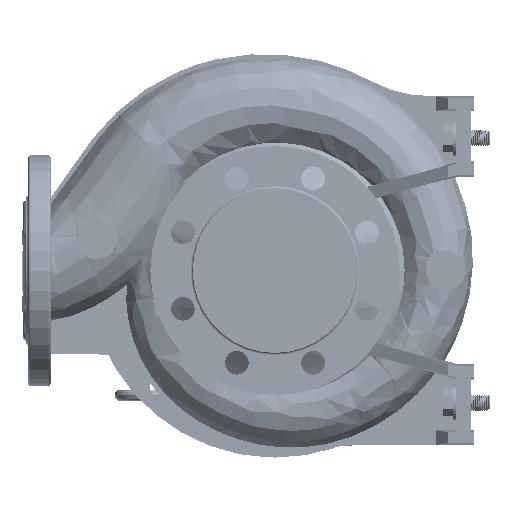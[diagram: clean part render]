
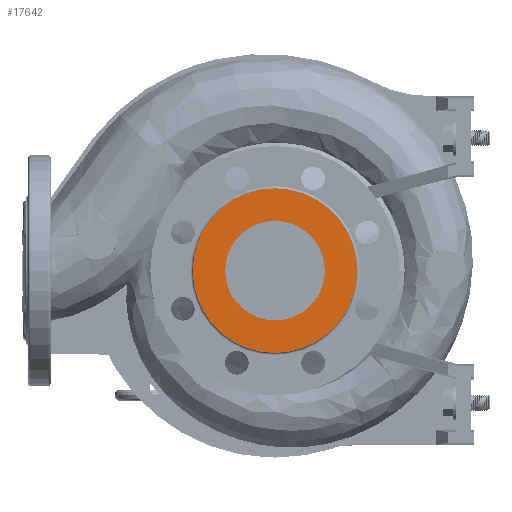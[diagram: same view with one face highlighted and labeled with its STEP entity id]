
A CAD part, left-side view. The second image highlights one B-rep face of the part: STEP entity #17642.
In plain terms, the highlighted planar face has unit normal (-1, 0, 0).
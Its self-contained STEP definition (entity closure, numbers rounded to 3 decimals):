
#7261 = DIRECTION ( 'NONE',  ( -1., 0., 0. ) ) ;
#7987 = DIRECTION ( 'NONE',  ( -1., 0., 0. ) ) ;
#8140 = CIRCLE ( 'NONE', #168732, 66. ) ;
#8335 = CARTESIAN_POINT ( 'NONE',  ( -100., -66., 0. ) ) ;
#9569 = AXIS2_PLACEMENT_3D ( 'NONE', #116491, #7261, #61007 ) ;
#10402 = EDGE_LOOP ( 'NONE', ( #102321, #22071 ) ) ;
#16735 = ORIENTED_EDGE ( 'NONE', *, *, #150323, .F. ) ;
#17642 = ADVANCED_FACE ( 'NONE', ( #76561, #126090 ), #48859, .T. ) ;
#21261 = CIRCLE ( 'NONE', #93302, 66. ) ;
#22071 = ORIENTED_EDGE ( 'NONE', *, *, #92573, .F. ) ;
#25318 = EDGE_CURVE ( 'NONE', #110909, #47400, #21261, .T. ) ;
#43503 = CARTESIAN_POINT ( 'NONE',  ( -100., -40., 0. ) ) ;
#44949 = CIRCLE ( 'NONE', #94743, 40. ) ;
#47400 = VERTEX_POINT ( 'NONE', #8335 ) ;
#48859 = PLANE ( 'NONE',  #9569 ) ;
#55369 = CARTESIAN_POINT ( 'NONE',  ( -100., 0., 0. ) ) ;
#61007 = DIRECTION ( 'NONE',  ( 0., -1., 0. ) ) ;
#68357 = DIRECTION ( 'NONE',  ( -1., 0., 0. ) ) ;
#70339 = DIRECTION ( 'NONE',  ( 0., 1., 0. ) ) ;
#71247 = EDGE_LOOP ( 'NONE', ( #136361, #16735 ) ) ;
#74502 = CARTESIAN_POINT ( 'NONE',  ( -100., 0., 0. ) ) ;
#76423 = DIRECTION ( 'NONE',  ( 0., -1., 0. ) ) ;
#76561 = FACE_BOUND ( 'NONE', #10402, .T. ) ;
#77753 = VERTEX_POINT ( 'NONE', #43503 ) ;
#80893 = CIRCLE ( 'NONE', #161305, 40. ) ;
#84186 = DIRECTION ( 'NONE',  ( 1., 0., 0. ) ) ;
#87757 = CARTESIAN_POINT ( 'NONE',  ( -100., 0., 0. ) ) ;
#92573 = EDGE_CURVE ( 'NONE', #143795, #77753, #44949, .T. ) ;
#93302 = AXIS2_PLACEMENT_3D ( 'NONE', #136292, #84186, #70339 ) ;
#94743 = AXIS2_PLACEMENT_3D ( 'NONE', #87757, #7987, #76423 ) ;
#98270 = CARTESIAN_POINT ( 'NONE',  ( -100., 40., 0. ) ) ;
#102235 = DIRECTION ( 'NONE',  ( 0., 1., 0. ) ) ;
#102321 = ORIENTED_EDGE ( 'NONE', *, *, #115883, .F. ) ;
#110909 = VERTEX_POINT ( 'NONE', #134114 ) ;
#112314 = DIRECTION ( 'NONE',  ( 0., -1., 0. ) ) ;
#115883 = EDGE_CURVE ( 'NONE', #77753, #143795, #80893, .T. ) ;
#116491 = CARTESIAN_POINT ( 'NONE',  ( -100., 0., 0. ) ) ;
#126090 = FACE_OUTER_BOUND ( 'NONE', #71247, .T. ) ;
#134114 = CARTESIAN_POINT ( 'NONE',  ( -100., 66., 0. ) ) ;
#136292 = CARTESIAN_POINT ( 'NONE',  ( -100., 0., 0. ) ) ;
#136361 = ORIENTED_EDGE ( 'NONE', *, *, #25318, .F. ) ;
#142136 = DIRECTION ( 'NONE',  ( 1., 0., 0. ) ) ;
#143795 = VERTEX_POINT ( 'NONE', #98270 ) ;
#150323 = EDGE_CURVE ( 'NONE', #47400, #110909, #8140, .T. ) ;
#161305 = AXIS2_PLACEMENT_3D ( 'NONE', #55369, #68357, #112314 ) ;
#168732 = AXIS2_PLACEMENT_3D ( 'NONE', #74502, #142136, #102235 ) ;
